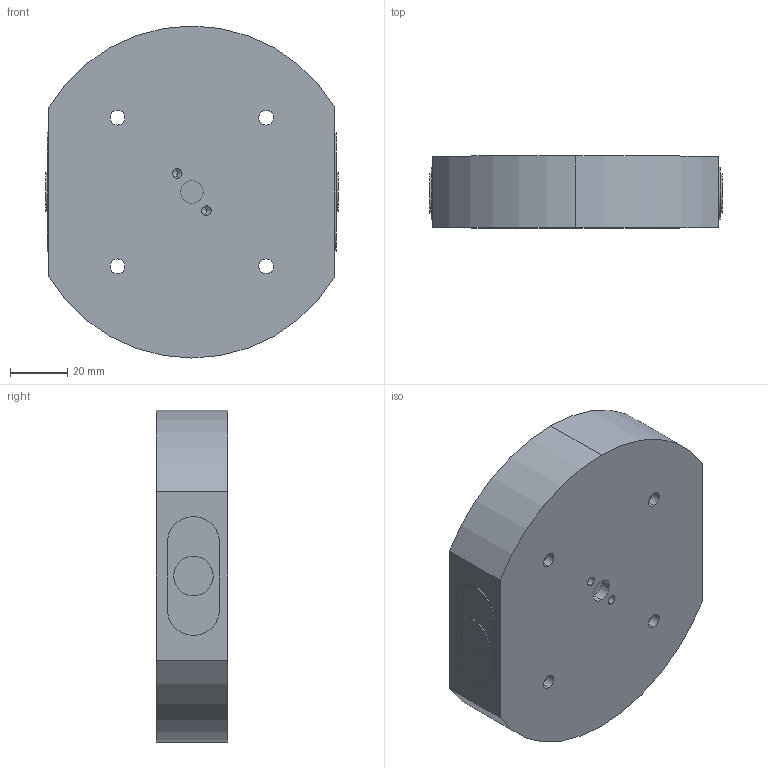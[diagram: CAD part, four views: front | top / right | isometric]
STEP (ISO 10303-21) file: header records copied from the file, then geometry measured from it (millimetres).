
FILE_DESCRIPTION (( 'STEP AP214' ), '1' );
FILE_NAME ('D_RL52A-4.STEP', '2020-02-28T18:23:33', ( '' ), ( '' ), 'SwSTEP 2.0', 'SolidWorks 2018', '' );
FILE_SCHEMA (( 'AUTOMOTIVE_DESIGN' ));
Length unit declared in the file: millimetre
Products named in the file (1): D_RL52A-4
Bounding box: 102.11 x 25 x 116 mm (x, y, z)
Volume: 202262.6 mm3; surface area: 46524 mm2
Topology: 1 solids, 1 shells, 156 faces, 385 edges, 250 vertices
Faces by surface type: cylinder 97, plane 51, cone 8
Entity records: 5655 total; most frequent: CARTESIAN_POINT 1262, DIRECTION 869, ORIENTED_EDGE 754, EDGE_CURVE 377, AXIS2_PLACEMENT_3D 357, VERTEX_POINT 250, CIRCLE 200, EDGE_LOOP 199
